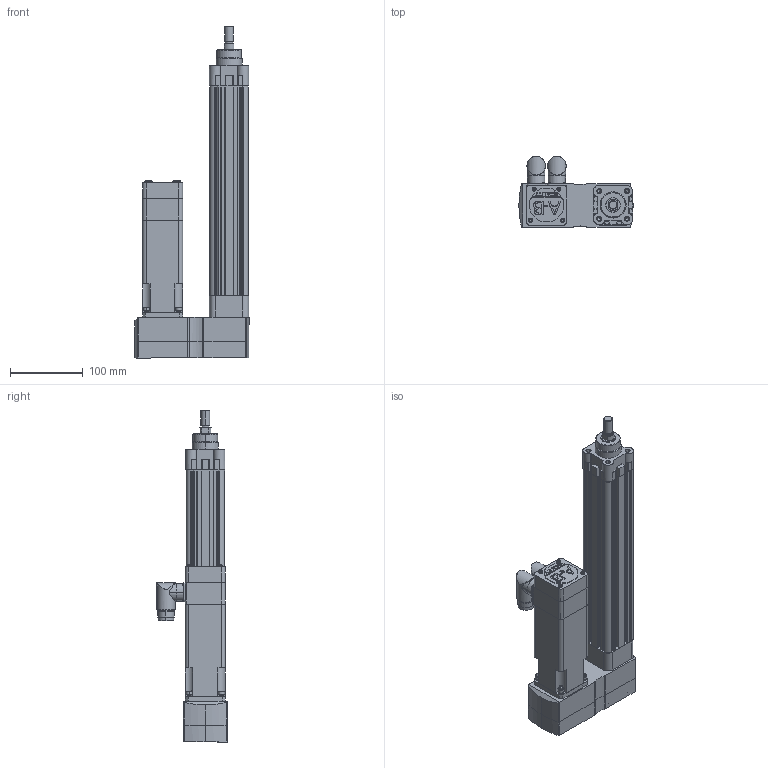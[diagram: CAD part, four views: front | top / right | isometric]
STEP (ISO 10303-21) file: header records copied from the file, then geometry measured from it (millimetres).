
FILE_DESCRIPTION (( 'STEP AP214' ), '1' );
FILE_NAME ('Rockwell Automation-$PARTNUMBER.STEP', '2015-07-10T13:41:58', ( 'Windows User' ), ( '' ), 'SwSTEP 2.0', 'SolidWorks 2015', '' );
FILE_SCHEMA (( 'AUTOMOTIVE_DESIGN' ));
Length unit declared in the file: millimetre
Products named in the file (16): Rockwell Automation-$PARTNUMBER; Rockwell Automation-$PARTNUMBER_Rockwell Automation-MPAR-X2200C-V4D_MPAR-x2200x; Rockwell Automation-$PARTNUMBER_Rockwell Automation-MPAR-X2200C-V4D_2-543132; Rockwell Automation-$PARTNUMBER_Rockwell Automation-MPAR-X2200C-V4D_1-543132; Rockwell Automation-$PARTNUMBER_Rockwell Automation-MPAR-X2200C-V4D_MPL-x1530F-V-X208_MPL-x1530x-xJ44AA; Rockwell Automation-$PARTNUMBER_Rockwell Automation-MPAR-X2200C-V4D_MPL-x1530x-xJ44AA_MPL-15xx-Feedback Connector; Rockwell Automation-$PARTNUMBER_Rockwell Automation-MPAR-X2200C-V4D_MPL-x1530x-xJ44AA_MPL-15xx-Power Connector; Rockwell Automation-$PARTNUMBER_Rockwell Automation-MPAR-X2200C-V4D_MPL-x1530x-xJ44AA_MPL-15xx-Shaft-Key_1530-SHAFT-KEYED-BRAKE; Rockwell Automation-$PARTNUMBER_Rockwell Automation-MPAR-X2200C-V4D_MPL-x1530x-xJ44AA_MPL-15xx-Body_1530-BRAKE; Rockwell Automation-$PARTNUMBER_Rockwell Automation-MPAR-X2200C-V4D_627501; Rockwell Automation-$PARTNUMBER_Rockwell Automation-MPAR-X2200C-V4D_627501_1210438_ST_ASM; Rockwell Automation-$PARTNUMBER_Rockwell Automation-MPAR-X2200C-V4D_627501_1210166; Rockwell Automation-$PARTNUMBER_Rockwell Automation-MPAR-X2200C-V4D_627501_1210200; Rockwell Automation-$PARTNUMBER_Rockwell Automation-MPAR-X2200C-V4D_627501_200048_3; Rockwell Automation-$PARTNUMBER_Rockwell Automation-MPAR-X2200C-V4D_627501_200671_3; Rockwell Automation-$PARTNUMBER_Rockwell Automation-MPAR-X2200C-V4D_627501_PRT0001
Assembly tree (25 placements, depth 4):
  Rockwell Automation-$PARTNUMBER
    Rockwell Automation-$PARTNUMBER_Rockwell Automation-MPAR-X2200C-V4D_627501
      Rockwell Automation-$PARTNUMBER_Rockwell Automation-MPAR-X2200C-V4D_627501_1210438_ST_ASM
        Rockwell Automation-$PARTNUMBER_Rockwell Automation-MPAR-X2200C-V4D_627501_PRT0001  x4
        Rockwell Automation-$PARTNUMBER_Rockwell Automation-MPAR-X2200C-V4D_627501_200671_3  x4
        Rockwell Automation-$PARTNUMBER_Rockwell Automation-MPAR-X2200C-V4D_627501_200048_3  x5
        Rockwell Automation-$PARTNUMBER_Rockwell Automation-MPAR-X2200C-V4D_627501_1210200
        Rockwell Automation-$PARTNUMBER_Rockwell Automation-MPAR-X2200C-V4D_627501_1210166
    Rockwell Automation-$PARTNUMBER_Rockwell Automation-MPAR-X2200C-V4D_MPL-x1530F-V-X208_MPL-x1530x-xJ44AA
      Rockwell Automation-$PARTNUMBER_Rockwell Automation-MPAR-X2200C-V4D_MPL-x1530x-xJ44AA_MPL-15xx-Body_1530-BRAKE
      Rockwell Automation-$PARTNUMBER_Rockwell Automation-MPAR-X2200C-V4D_MPL-x1530x-xJ44AA_MPL-15xx-Shaft-Key_1530-SHAFT-KEYED-BRAKE
      Rockwell Automation-$PARTNUMBER_Rockwell Automation-MPAR-X2200C-V4D_MPL-x1530x-xJ44AA_MPL-15xx-Power Connector
      Rockwell Automation-$PARTNUMBER_Rockwell Automation-MPAR-X2200C-V4D_MPL-x1530x-xJ44AA_MPL-15xx-Feedback Connector
    Rockwell Automation-$PARTNUMBER_Rockwell Automation-MPAR-X2200C-V4D_MPAR-x2200x
      Rockwell Automation-$PARTNUMBER_Rockwell Automation-MPAR-X2200C-V4D_1-543132
      Rockwell Automation-$PARTNUMBER_Rockwell Automation-MPAR-X2200C-V4D_2-543132
Bounding box: 157 x 96.6 x 456.5 mm (x, y, z)
Volume: 1432755.9 mm3; surface area: 359793.5 mm2
Topology: 25 solids, 25 shells, 1641 faces, 4038 edges, 2562 vertices
Faces by surface type: plane 657, cylinder 570, cone 252, bspline 114, torus 48
Entity records: 46522 total; most frequent: CARTESIAN_POINT 12813, DIRECTION 6996, ORIENTED_EDGE 6692, EDGE_CURVE 3346, AXIS2_PLACEMENT_3D 2618, VERTEX_POINT 2142, VECTOR 1760, LINE 1760
